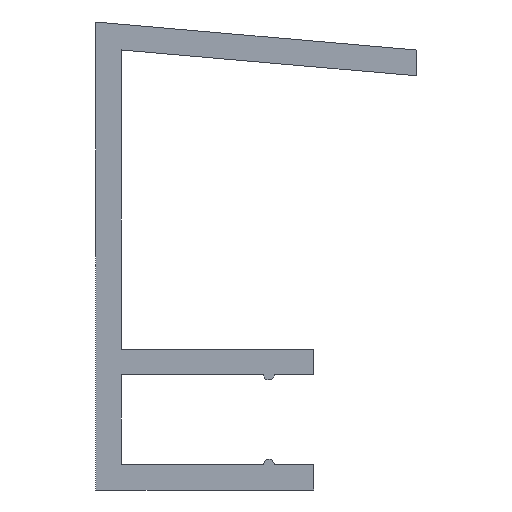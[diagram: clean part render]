
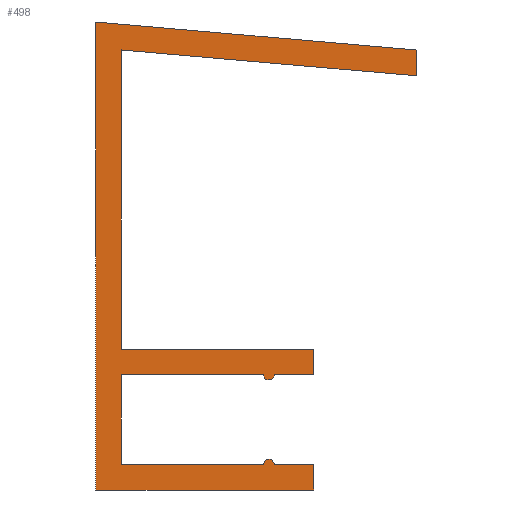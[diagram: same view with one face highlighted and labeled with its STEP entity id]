
A CAD part, left-side view. The second image highlights one B-rep face of the part: STEP entity #498.
In plain terms, the highlighted planar face has unit normal (-1, 0, 0).
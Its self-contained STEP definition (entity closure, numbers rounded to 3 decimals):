
#17 = LINE ( 'NONE', #89, #529 ) ;
#18 = AXIS2_PLACEMENT_3D ( 'NONE', #212, #628, #575 ) ;
#19 = VERTEX_POINT ( 'NONE', #615 ) ;
#21 = AXIS2_PLACEMENT_3D ( 'NONE', #292, #77, #442 ) ;
#22 = CARTESIAN_POINT ( 'NONE',  ( -75., -9., -12.4 ) ) ;
#25 = DIRECTION ( 'NONE',  ( 0., 0., -1. ) ) ;
#35 = VECTOR ( 'NONE', #136, 1000. ) ;
#37 = EDGE_CURVE ( 'NONE', #19, #519, #17, .T. ) ;
#40 = DIRECTION ( 'NONE',  ( 0., 0., -1. ) ) ;
#43 = DIRECTION ( 'NONE',  ( 0., 0.996, 0.087 ) ) ;
#45 = EDGE_CURVE ( 'NONE', #72, #526, #625, .T. ) ;
#46 = CARTESIAN_POINT ( 'NONE',  ( -75., 0., 7. ) ) ;
#51 = VECTOR ( 'NONE', #177, 1000. ) ;
#54 = EDGE_CURVE ( 'NONE', #667, #490, #592, .T. ) ;
#55 = AXIS2_PLACEMENT_3D ( 'NONE', #143, #405, #303 ) ;
#59 = VERTEX_POINT ( 'NONE', #669 ) ;
#61 = VERTEX_POINT ( 'NONE', #305 ) ;
#62 = LINE ( 'NONE', #22, #478 ) ;
#64 = EDGE_CURVE ( 'NONE', #508, #383, #328, .T. ) ;
#68 = CIRCLE ( 'NONE', #78, 0.25 ) ;
#72 = VERTEX_POINT ( 'NONE', #360 ) ;
#74 = VECTOR ( 'NONE', #518, 1000. ) ;
#77 = DIRECTION ( 'NONE',  ( 1., 0., 0. ) ) ;
#78 = AXIS2_PLACEMENT_3D ( 'NONE', #389, #108, #120 ) ;
#80 = VECTOR ( 'NONE', #605, 1000. ) ;
#81 = VECTOR ( 'NONE', #266, 1000. ) ;
#89 = CARTESIAN_POINT ( 'NONE',  ( -75., 0., -7. ) ) ;
#90 = DIRECTION ( 'NONE',  ( 0., 1., 0. ) ) ;
#91 = CARTESIAN_POINT ( 'NONE',  ( -75., -7.15, -12.4 ) ) ;
#100 = VECTOR ( 'NONE', #541, 1000. ) ;
#108 = DIRECTION ( 'NONE',  ( 1., 0., 0. ) ) ;
#120 = DIRECTION ( 'NONE',  ( 0., 0., -1. ) ) ;
#132 = CARTESIAN_POINT ( 'NONE',  ( -75., -6.65, -12.4 ) ) ;
#136 = DIRECTION ( 'NONE',  ( 0., 1., 0. ) ) ;
#143 = CARTESIAN_POINT ( 'NONE',  ( -75., -6.9, -12.4 ) ) ;
#144 = CARTESIAN_POINT ( 'NONE',  ( -75., 0., -12.4 ) ) ;
#145 = ORIENTED_EDGE ( 'NONE', *, *, #37, .F. ) ;
#148 = EDGE_CURVE ( 'NONE', #391, #352, #232, .T. ) ;
#151 = CARTESIAN_POINT ( 'NONE',  ( -75., 1.2, 8.31 ) ) ;
#156 = ORIENTED_EDGE ( 'NONE', *, *, #578, .F. ) ;
#157 = EDGE_CURVE ( 'NONE', #481, #72, #322, .T. ) ;
#160 = CARTESIAN_POINT ( 'NONE',  ( -75., 1.2, 8.31 ) ) ;
#162 = ORIENTED_EDGE ( 'NONE', *, *, #233, .F. ) ;
#165 = ORIENTED_EDGE ( 'NONE', *, *, #585, .F. ) ;
#168 = LINE ( 'NONE', #493, #100 ) ;
#171 = ORIENTED_EDGE ( 'NONE', *, *, #157, .F. ) ;
#174 = LINE ( 'NONE', #151, #81 ) ;
#176 = EDGE_CURVE ( 'NONE', #223, #481, #174, .T. ) ;
#177 = DIRECTION ( 'NONE',  ( 0., 0., 1. ) ) ;
#191 = VECTOR ( 'NONE', #40, 1000. ) ;
#198 = VERTEX_POINT ( 'NONE', #577 ) ;
#212 = CARTESIAN_POINT ( 'NONE',  ( -75., -6.9, -8.2 ) ) ;
#216 = FACE_OUTER_BOUND ( 'NONE', #302, .T. ) ;
#223 = VERTEX_POINT ( 'NONE', #160 ) ;
#231 = LINE ( 'NONE', #432, #51 ) ;
#232 = LINE ( 'NONE', #468, #35 ) ;
#233 = EDGE_CURVE ( 'NONE', #61, #391, #638, .T. ) ;
#239 = PLANE ( 'NONE',  #21 ) ;
#240 = ORIENTED_EDGE ( 'NONE', *, *, #45, .F. ) ;
#242 = CARTESIAN_POINT ( 'NONE',  ( -75., -9., -7. ) ) ;
#250 = ORIENTED_EDGE ( 'NONE', *, *, #485, .F. ) ;
#266 = DIRECTION ( 'NONE',  ( 0., -0.996, -0.087 ) ) ;
#275 = ORIENTED_EDGE ( 'NONE', *, *, #176, .F. ) ;
#278 = VECTOR ( 'NONE', #90, 1000. ) ;
#290 = CARTESIAN_POINT ( 'NONE',  ( -75., -9., -12.4 ) ) ;
#292 = CARTESIAN_POINT ( 'NONE',  ( -75., -6.9, -8.2 ) ) ;
#299 = CARTESIAN_POINT ( 'NONE',  ( -75., -13.8, 6.997 ) ) ;
#302 = EDGE_LOOP ( 'NONE', ( #275, #661, #525, #552, #338, #654, #165, #662, #358, #356, #162, #156, #362, #145, #250, #240, #171 ) ) ;
#303 = DIRECTION ( 'NONE',  ( 0., 0., -1. ) ) ;
#304 = VECTOR ( 'NONE', #43, 1000. ) ;
#305 = CARTESIAN_POINT ( 'NONE',  ( -75., -7.15, -8.2 ) ) ;
#311 = CARTESIAN_POINT ( 'NONE',  ( -75., -9., -13.6 ) ) ;
#316 = CARTESIAN_POINT ( 'NONE',  ( -75., 0., -12.4 ) ) ;
#322 = LINE ( 'NONE', #299, #191 ) ;
#328 = LINE ( 'NONE', #91, #613 ) ;
#338 = ORIENTED_EDGE ( 'NONE', *, *, #64, .F. ) ;
#340 = EDGE_CURVE ( 'NONE', #198, #223, #231, .T. ) ;
#351 = EDGE_CURVE ( 'NONE', #59, #508, #68, .T. ) ;
#352 = VERTEX_POINT ( 'NONE', #430 ) ;
#356 = ORIENTED_EDGE ( 'NONE', *, *, #148, .F. ) ;
#358 = ORIENTED_EDGE ( 'NONE', *, *, #558, .F. ) ;
#360 = CARTESIAN_POINT ( 'NONE',  ( -75., -13.8, 5.793 ) ) ;
#361 = VECTOR ( 'NONE', #614, 1000. ) ;
#362 = ORIENTED_EDGE ( 'NONE', *, *, #374, .F. ) ;
#374 = EDGE_CURVE ( 'NONE', #519, #595, #168, .T. ) ;
#380 = EDGE_CURVE ( 'NONE', #383, #447, #62, .T. ) ;
#383 = VERTEX_POINT ( 'NONE', #290 ) ;
#389 = CARTESIAN_POINT ( 'NONE',  ( -75., -6.9, -12.4 ) ) ;
#391 = VERTEX_POINT ( 'NONE', #527 ) ;
#392 = CARTESIAN_POINT ( 'NONE',  ( -75., 0., 7. ) ) ;
#405 = DIRECTION ( 'NONE',  ( 1., 0., 0. ) ) ;
#412 = CARTESIAN_POINT ( 'NONE',  ( -75., -9., -8.2 ) ) ;
#430 = CARTESIAN_POINT ( 'NONE',  ( -75., 0., -8.2 ) ) ;
#432 = CARTESIAN_POINT ( 'NONE',  ( -75., 1.2, -13.6 ) ) ;
#439 = CARTESIAN_POINT ( 'NONE',  ( -75., -7.15, -12.4 ) ) ;
#442 = DIRECTION ( 'NONE',  ( 0., 1., 0. ) ) ;
#447 = VERTEX_POINT ( 'NONE', #448 ) ;
#448 = CARTESIAN_POINT ( 'NONE',  ( -75., -9., -13.6 ) ) ;
#457 = DIRECTION ( 'NONE',  ( 0., -1., 0. ) ) ;
#462 = DIRECTION ( 'NONE',  ( 0., -1., 0. ) ) ;
#466 = DIRECTION ( 'NONE',  ( 0., -1., 0. ) ) ;
#468 = CARTESIAN_POINT ( 'NONE',  ( -75., -6.65, -8.2 ) ) ;
#478 = VECTOR ( 'NONE', #25, 1000. ) ;
#481 = VERTEX_POINT ( 'NONE', #609 ) ;
#485 = EDGE_CURVE ( 'NONE', #526, #19, #503, .T. ) ;
#487 = LINE ( 'NONE', #664, #278 ) ;
#490 = VERTEX_POINT ( 'NONE', #132 ) ;
#493 = CARTESIAN_POINT ( 'NONE',  ( -75., -9., -7. ) ) ;
#498 = ADVANCED_FACE ( 'NONE', ( #216 ), #239, .F. ) ;
#503 = LINE ( 'NONE', #392, #80 ) ;
#508 = VERTEX_POINT ( 'NONE', #439 ) ;
#518 = DIRECTION ( 'NONE',  ( 0., 0., -1. ) ) ;
#519 = VERTEX_POINT ( 'NONE', #242 ) ;
#525 = ORIENTED_EDGE ( 'NONE', *, *, #635, .F. ) ;
#526 = VERTEX_POINT ( 'NONE', #46 ) ;
#527 = CARTESIAN_POINT ( 'NONE',  ( -75., -6.65, -8.2 ) ) ;
#529 = VECTOR ( 'NONE', #462, 1000. ) ;
#531 = LINE ( 'NONE', #311, #361 ) ;
#541 = DIRECTION ( 'NONE',  ( 0., 0., -1. ) ) ;
#552 = ORIENTED_EDGE ( 'NONE', *, *, #380, .F. ) ;
#555 = CARTESIAN_POINT ( 'NONE',  ( -75., 0., -8.2 ) ) ;
#558 = EDGE_CURVE ( 'NONE', #352, #667, #637, .T. ) ;
#575 = DIRECTION ( 'NONE',  ( 0., 0., -1. ) ) ;
#577 = CARTESIAN_POINT ( 'NONE',  ( -75., 1.2, -13.6 ) ) ;
#578 = EDGE_CURVE ( 'NONE', #595, #61, #487, .T. ) ;
#581 = VECTOR ( 'NONE', #457, 1000. ) ;
#585 = EDGE_CURVE ( 'NONE', #490, #59, #666, .T. ) ;
#592 = LINE ( 'NONE', #144, #581 ) ;
#595 = VERTEX_POINT ( 'NONE', #412 ) ;
#605 = DIRECTION ( 'NONE',  ( 0., 0., -1. ) ) ;
#609 = CARTESIAN_POINT ( 'NONE',  ( -75., -13.8, 6.997 ) ) ;
#613 = VECTOR ( 'NONE', #466, 1000. ) ;
#614 = DIRECTION ( 'NONE',  ( 0., 1., 0. ) ) ;
#615 = CARTESIAN_POINT ( 'NONE',  ( -75., 0., -7. ) ) ;
#625 = LINE ( 'NONE', #665, #304 ) ;
#628 = DIRECTION ( 'NONE',  ( 1., 0., 0. ) ) ;
#635 = EDGE_CURVE ( 'NONE', #447, #198, #531, .T. ) ;
#637 = LINE ( 'NONE', #555, #74 ) ;
#638 = CIRCLE ( 'NONE', #18, 0.25 ) ;
#654 = ORIENTED_EDGE ( 'NONE', *, *, #351, .F. ) ;
#661 = ORIENTED_EDGE ( 'NONE', *, *, #340, .F. ) ;
#662 = ORIENTED_EDGE ( 'NONE', *, *, #54, .F. ) ;
#664 = CARTESIAN_POINT ( 'NONE',  ( -75., -9., -8.2 ) ) ;
#665 = CARTESIAN_POINT ( 'NONE',  ( -75., -13.8, 5.793 ) ) ;
#666 = CIRCLE ( 'NONE', #55, 0.25 ) ;
#667 = VERTEX_POINT ( 'NONE', #316 ) ;
#669 = CARTESIAN_POINT ( 'NONE',  ( -75., -6.9, -12.15 ) ) ;
